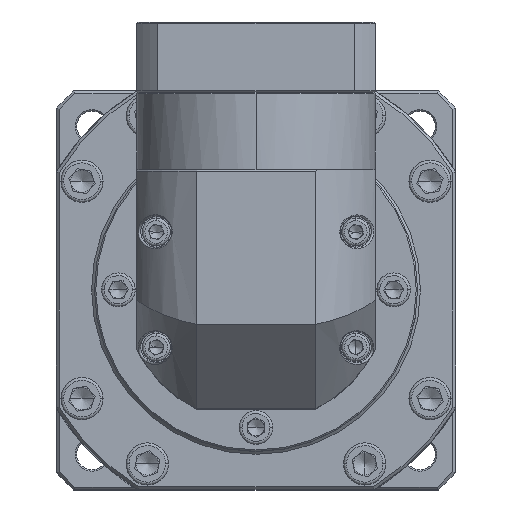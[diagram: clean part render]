
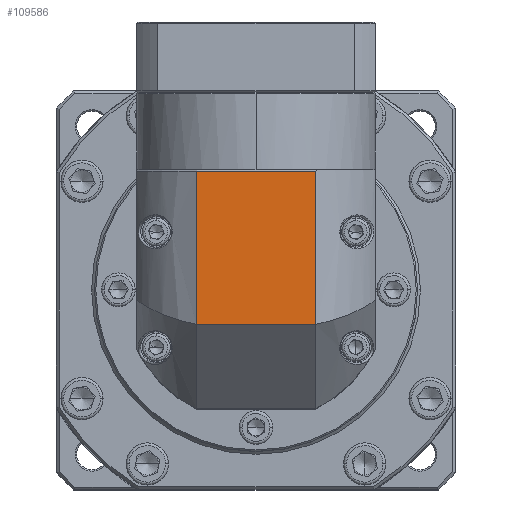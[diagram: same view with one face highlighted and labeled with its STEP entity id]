
A CAD part, top view. The second image highlights one B-rep face of the part: STEP entity #109586.
In plain terms, the highlighted planar face has unit normal (0, 0, 1).
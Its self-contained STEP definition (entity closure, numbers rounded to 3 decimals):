
#1283 = LINE ( 'NONE', #100327, #155347 ) ;
#4640 = CARTESIAN_POINT ( 'NONE',  ( -54.661, 68.091, 449.802 ) ) ;
#16529 = CARTESIAN_POINT ( 'NONE',  ( -33.448, 13.591, 449.802 ) ) ;
#29951 = ORIENTED_EDGE ( 'NONE', *, *, #40534, .F. ) ;
#31972 = CARTESIAN_POINT ( 'NONE',  ( -33.448, 26.091, 449.802 ) ) ;
#37649 = ORIENTED_EDGE ( 'NONE', *, *, #70544, .T. ) ;
#37981 = VECTOR ( 'NONE', #154409, 1000. ) ;
#40154 = VERTEX_POINT ( 'NONE', #52771 ) ;
#40534 = EDGE_CURVE ( 'NONE', #100916, #40154, #103997, .T. ) ;
#43954 = DIRECTION ( 'NONE',  ( 0., 0., 1. ) ) ;
#52771 = CARTESIAN_POINT ( 'NONE',  ( -54.661, 13.591, 449.802 ) ) ;
#61909 = LINE ( 'NONE', #130132, #155918 ) ;
#63168 = FACE_OUTER_BOUND ( 'NONE', #65721, .T. ) ;
#65721 = EDGE_LOOP ( 'NONE', ( #117897, #29951, #117778, #37649 ) ) ;
#67679 = PLANE ( 'NONE',  #105056 ) ;
#69823 = CARTESIAN_POINT ( 'NONE',  ( -54.661, -31.909, 449.802 ) ) ;
#70544 = EDGE_CURVE ( 'NONE', #141722, #95297, #1283, .T. ) ;
#74771 = DIRECTION ( 'NONE',  ( -1., 0., 0. ) ) ;
#95297 = VERTEX_POINT ( 'NONE', #4640 ) ;
#100327 = CARTESIAN_POINT ( 'NONE',  ( -33.448, 68.091, 449.802 ) ) ;
#100916 = VERTEX_POINT ( 'NONE', #152518 ) ;
#103400 = DIRECTION ( 'NONE',  ( 0., 1., 0. ) ) ;
#103997 = LINE ( 'NONE', #16529, #109743 ) ;
#105056 = AXIS2_PLACEMENT_3D ( 'NONE', #31972, #43954, #103400 ) ;
#109586 = ADVANCED_FACE ( 'NONE', ( #63168 ), #67679, .T. ) ;
#109743 = VECTOR ( 'NONE', #74771, 1000. ) ;
#113098 = CARTESIAN_POINT ( 'NONE',  ( -12.235, 68.091, 449.802 ) ) ;
#117778 = ORIENTED_EDGE ( 'NONE', *, *, #155339, .F. ) ;
#117897 = ORIENTED_EDGE ( 'NONE', *, *, #123641, .F. ) ;
#123641 = EDGE_CURVE ( 'NONE', #40154, #95297, #124504, .T. ) ;
#124504 = LINE ( 'NONE', #69823, #37981 ) ;
#130132 = CARTESIAN_POINT ( 'NONE',  ( -12.235, -31.909, 449.802 ) ) ;
#130654 = DIRECTION ( 'NONE',  ( 0., -1., 0. ) ) ;
#140266 = DIRECTION ( 'NONE',  ( -1., 0., 0. ) ) ;
#141722 = VERTEX_POINT ( 'NONE', #113098 ) ;
#152518 = CARTESIAN_POINT ( 'NONE',  ( -12.235, 13.591, 449.802 ) ) ;
#154409 = DIRECTION ( 'NONE',  ( 0., 1., 0. ) ) ;
#155339 = EDGE_CURVE ( 'NONE', #141722, #100916, #61909, .T. ) ;
#155347 = VECTOR ( 'NONE', #140266, 1000. ) ;
#155918 = VECTOR ( 'NONE', #130654, 1000. ) ;
